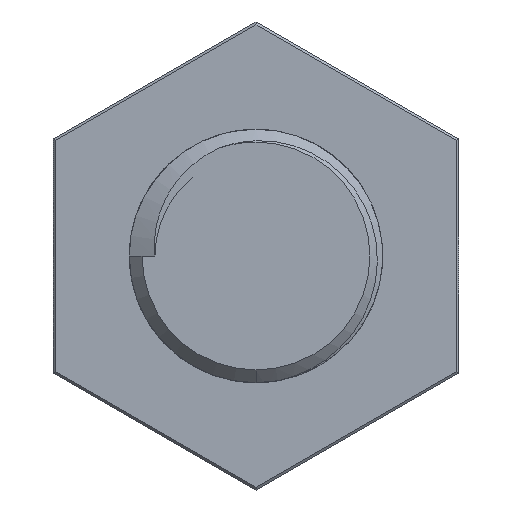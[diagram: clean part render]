
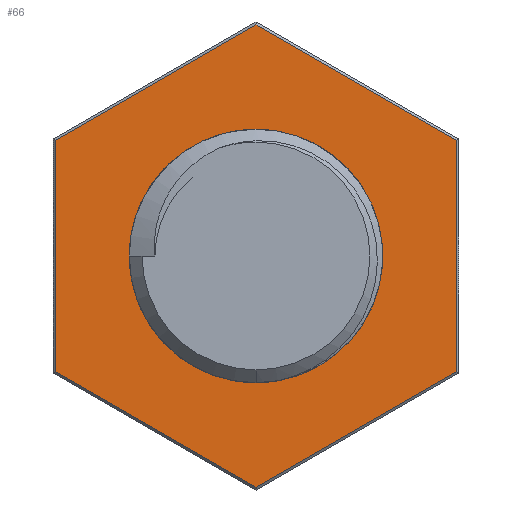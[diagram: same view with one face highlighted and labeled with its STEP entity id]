
A CAD part, front view. The second image highlights one B-rep face of the part: STEP entity #66.
In plain terms, the highlighted planar face has unit normal (0, -1, 0).
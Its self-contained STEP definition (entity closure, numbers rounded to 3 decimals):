
#43 = EDGE_CURVE ( 'NONE', #2828, #2961, #2707, .T. ) ;
#63 = EDGE_CURVE ( 'NONE', #3026, #3047, #680, .T. ) ;
#66 = ADVANCED_FACE ( 'NONE', ( #1483, #1588 ), #674, .T. ) ;
#77 = EDGE_CURVE ( 'NONE', #2986, #3104, #569, .T. ) ;
#273 = DIRECTION ( 'NONE',  ( 0., 0., -1. ) ) ;
#274 = CARTESIAN_POINT ( 'NONE',  ( 0., -5.9, 0. ) ) ;
#281 = DIRECTION ( 'NONE',  ( 0., 1., 0. ) ) ;
#341 = DIRECTION ( 'NONE',  ( 0., 0., -1. ) ) ;
#343 = DIRECTION ( 'NONE',  ( 0., -1., 0. ) ) ;
#344 = CARTESIAN_POINT ( 'NONE',  ( 0., -5.9, 9.238 ) ) ;
#569 = LINE ( 'NONE', #586, #1600 ) ;
#571 = DIRECTION ( 'NONE',  ( 0.866, 0., -0.5 ) ) ;
#586 = CARTESIAN_POINT ( 'NONE',  ( 0.05, -5.9, -9.151 ) ) ;
#674 = PLANE ( 'NONE',  #1486 ) ;
#675 = CARTESIAN_POINT ( 'NONE',  ( 7.9, -5.9, 4.619 ) ) ;
#677 = DIRECTION ( 'NONE',  ( 0., 0., 1. ) ) ;
#680 = LINE ( 'NONE', #675, #1504 ) ;
#712 = DIRECTION ( 'NONE',  ( 0.866, 0., 0.5 ) ) ;
#721 = CARTESIAN_POINT ( 'NONE',  ( 7.95, -5.9, -4.532 ) ) ;
#723 = LINE ( 'NONE', #721, #1369 ) ;
#754 = DIRECTION ( 'NONE',  ( 0., 0., -1. ) ) ;
#757 = LINE ( 'NONE', #768, #1411 ) ;
#768 = CARTESIAN_POINT ( 'NONE',  ( -7.9, -5.9, -4.619 ) ) ;
#892 = DIRECTION ( 'NONE',  ( -0.866, 0., -0.5 ) ) ;
#893 = CARTESIAN_POINT ( 'NONE',  ( -7.95, -5.9, 4.532 ) ) ;
#894 = LINE ( 'NONE', #893, #1336 ) ;
#988 = DIRECTION ( 'NONE',  ( -0.866, 0., 0.5 ) ) ;
#989 = CARTESIAN_POINT ( 'NONE',  ( -0.05, -5.9, 9.151 ) ) ;
#990 = LINE ( 'NONE', #989, #1330 ) ;
#1304 = AXIS2_PLACEMENT_3D ( 'NONE', #2485, #2429, #2460 ) ;
#1330 = VECTOR ( 'NONE', #988, 1000. ) ;
#1336 = VECTOR ( 'NONE', #892, 1000. ) ;
#1369 = VECTOR ( 'NONE', #712, 1000. ) ;
#1411 = VECTOR ( 'NONE', #754, 1000. ) ;
#1483 = FACE_BOUND ( 'NONE', #3170, .T. ) ;
#1486 = AXIS2_PLACEMENT_3D ( 'NONE', #344, #343, #341 ) ;
#1504 = VECTOR ( 'NONE', #677, 1000. ) ;
#1565 = AXIS2_PLACEMENT_3D ( 'NONE', #274, #281, #273 ) ;
#1588 = FACE_OUTER_BOUND ( 'NONE', #3187, .T. ) ;
#1600 = VECTOR ( 'NONE', #571, 1000. ) ;
#2308 = CARTESIAN_POINT ( 'NONE',  ( 7.9, -5.9, 4.561 ) ) ;
#2363 = CARTESIAN_POINT ( 'NONE',  ( -7.9, -5.9, 4.561 ) ) ;
#2378 = CARTESIAN_POINT ( 'NONE',  ( 0., -5.9, -9.122 ) ) ;
#2398 = CARTESIAN_POINT ( 'NONE',  ( 0., -5.9, 4.2 ) ) ;
#2411 = CARTESIAN_POINT ( 'NONE',  ( 0., -5.9, -4.2 ) ) ;
#2426 = CARTESIAN_POINT ( 'NONE',  ( 7.9, -5.9, -4.561 ) ) ;
#2429 = DIRECTION ( 'NONE',  ( 0., 1., 0. ) ) ;
#2435 = CARTESIAN_POINT ( 'NONE',  ( 0., -5.9, 9.122 ) ) ;
#2454 = CARTESIAN_POINT ( 'NONE',  ( -7.9, -5.9, -4.561 ) ) ;
#2460 = DIRECTION ( 'NONE',  ( 0., 0., -1. ) ) ;
#2485 = CARTESIAN_POINT ( 'NONE',  ( 0., -5.9, 0. ) ) ;
#2556 = EDGE_CURVE ( 'NONE', #3116, #2986, #757, .T. ) ;
#2584 = EDGE_CURVE ( 'NONE', #3104, #3026, #723, .T. ) ;
#2609 = EDGE_CURVE ( 'NONE', #3034, #3116, #894, .T. ) ;
#2614 = EDGE_CURVE ( 'NONE', #3047, #3034, #990, .T. ) ;
#2678 = CIRCLE ( 'NONE', #1304, 4.2 ) ;
#2696 = EDGE_CURVE ( 'NONE', #2961, #2828, #2678, .T. ) ;
#2707 = CIRCLE ( 'NONE', #1565, 4.2 ) ;
#2820 = ORIENTED_EDGE ( 'NONE', *, *, #43, .T. ) ;
#2828 = VERTEX_POINT ( 'NONE', #2411 ) ;
#2924 = ORIENTED_EDGE ( 'NONE', *, *, #2609, .T. ) ;
#2961 = VERTEX_POINT ( 'NONE', #2398 ) ;
#2986 = VERTEX_POINT ( 'NONE', #2454 ) ;
#3023 = ORIENTED_EDGE ( 'NONE', *, *, #2614, .T. ) ;
#3026 = VERTEX_POINT ( 'NONE', #2426 ) ;
#3034 = VERTEX_POINT ( 'NONE', #2435 ) ;
#3047 = VERTEX_POINT ( 'NONE', #2308 ) ;
#3091 = ORIENTED_EDGE ( 'NONE', *, *, #63, .T. ) ;
#3104 = VERTEX_POINT ( 'NONE', #2378 ) ;
#3116 = VERTEX_POINT ( 'NONE', #2363 ) ;
#3170 = EDGE_LOOP ( 'NONE', ( #2820, #3262 ) ) ;
#3175 = ORIENTED_EDGE ( 'NONE', *, *, #2556, .T. ) ;
#3187 = EDGE_LOOP ( 'NONE', ( #3309, #3091, #3023, #2924, #3175, #3275 ) ) ;
#3262 = ORIENTED_EDGE ( 'NONE', *, *, #2696, .T. ) ;
#3275 = ORIENTED_EDGE ( 'NONE', *, *, #77, .T. ) ;
#3309 = ORIENTED_EDGE ( 'NONE', *, *, #2584, .T. ) ;
